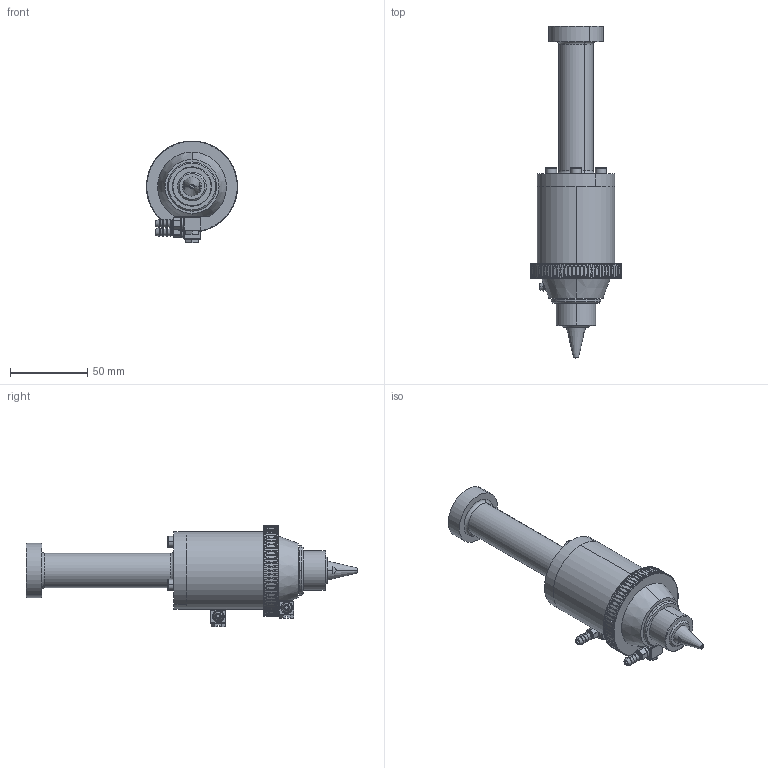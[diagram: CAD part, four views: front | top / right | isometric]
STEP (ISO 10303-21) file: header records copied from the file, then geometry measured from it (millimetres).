
FILE_DESCRIPTION (( 'STEP AP214' ), '1' );
FILE_NAME ('PHF-25-80.STEP', '2016-10-24T14:47:01', ( '' ), ( '' ), 'SwSTEP 2.0', 'SolidWorks 2016', '' );
FILE_SCHEMA (( 'AUTOMOTIVE_DESIGN' ));
Length unit declared in the file: inch
Products named in the file (1): PHF-25-80
Bounding box: 58.72 x 214.24 x 65.79 mm (x, y, z)
Volume: 200292.7 mm3; surface area: 34092.3 mm2
Topology: 1 solids, 2 shells, 1266 faces, 3584 edges, 2315 vertices
Faces by surface type: plane 764, cylinder 346, torus 84, sphere 40, cone 32
Entity records: 40654 total; most frequent: CARTESIAN_POINT 9104, ORIENTED_EDGE 7088, DIRECTION 6249, EDGE_CURVE 3544, VERTEX_POINT 2315, VECTOR 2173, LINE 2173, AXIS2_PLACEMENT_3D 2038
